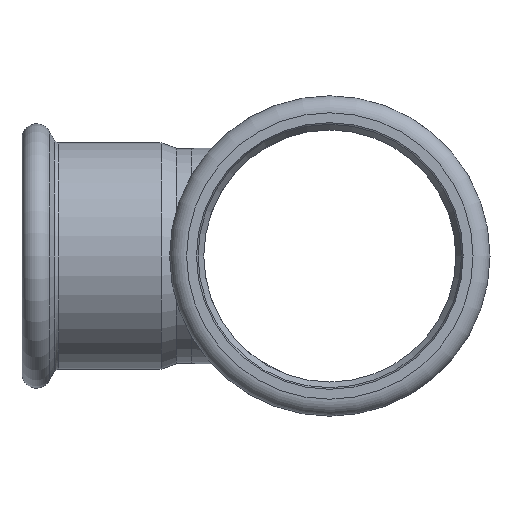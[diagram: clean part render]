
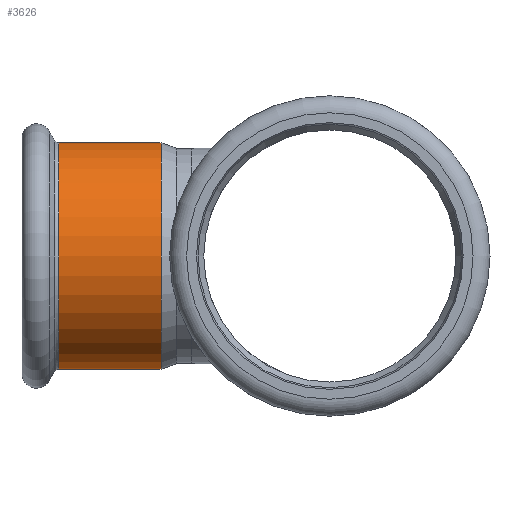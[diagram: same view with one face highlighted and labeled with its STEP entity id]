
A CAD part, left-side view. The second image highlights one B-rep face of the part: STEP entity #3626.
In plain terms, the highlighted cylindrical face has radius 46.75 mm (diameter 93.5 mm), a full revolution.
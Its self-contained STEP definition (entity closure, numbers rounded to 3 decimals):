
#3592=CARTESIAN_POINT('',(-54.878,46.75,0.0));
#3593=VERTEX_POINT('',#3592);
#3594=CARTESIAN_POINT('',(-54.878,0.,0.0));
#3595=DIRECTION('',(1.0,0.0,0.0));
#3596=DIRECTION('',(0.0,1.0,0.0));
#3597=AXIS2_PLACEMENT_3D('',#3594,#3595,#3596);
#3598=CIRCLE('',#3597,46.75);
#3599=EDGE_CURVE('',#3593,#3593,#3598,.T.);
#3607=CARTESIAN_POINT('',(-33.763,0.,0.0));
#3608=DIRECTION('',(1.0,0.,0.0));
#3609=DIRECTION('',(0.0,1.0,0.0));
#3610=AXIS2_PLACEMENT_3D('',#3607,#3608,#3609);
#3611=CYLINDRICAL_SURFACE('',#3610,46.75);
#3612=CARTESIAN_POINT('',(-12.647,46.75,0.0));
#3613=VERTEX_POINT('',#3612);
#3614=CARTESIAN_POINT('',(-12.647,0.,0.0));
#3615=DIRECTION('',(1.0,0.0,0.0));
#3616=DIRECTION('',(0.0,1.0,0.0));
#3617=AXIS2_PLACEMENT_3D('',#3614,#3615,#3616);
#3618=CIRCLE('',#3617,46.75);
#3619=EDGE_CURVE('',#3613,#3613,#3618,.T.);
#3620=ORIENTED_EDGE('',*,*,#3619,.F.);
#3621=EDGE_LOOP('',(#3620));
#3622=FACE_OUTER_BOUND('',#3621,.T.);
#3623=ORIENTED_EDGE('',*,*,#3599,.T.);
#3624=EDGE_LOOP('',(#3623));
#3625=FACE_BOUND('',#3624,.T.);
#3626=ADVANCED_FACE('',(#3622,#3625),#3611,.T.);
